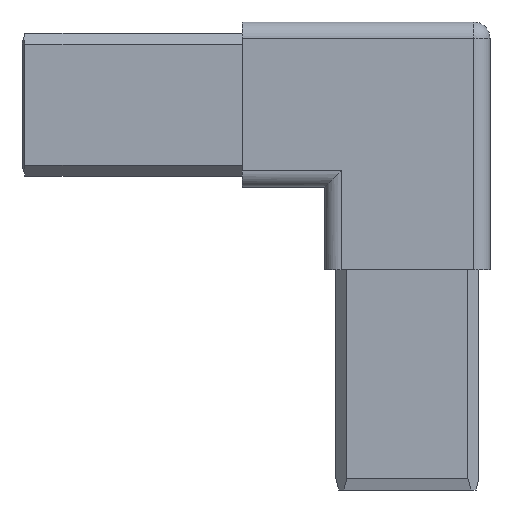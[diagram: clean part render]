
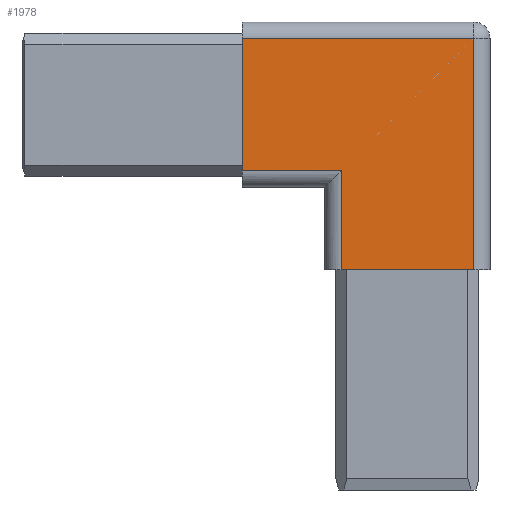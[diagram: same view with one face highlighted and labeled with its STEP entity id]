
A CAD part, front view. The second image highlights one B-rep face of the part: STEP entity #1978.
In plain terms, the highlighted planar face has unit normal (0, -1, 0).
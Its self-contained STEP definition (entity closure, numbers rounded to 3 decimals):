
#216 = EDGE_CURVE ( 'NONE', #4261, #1526, #4192, .T. ) ;
#219 = CARTESIAN_POINT ( 'NONE',  ( -4.5, -22.5, 15. ) ) ;
#267 = ORIENTED_EDGE ( 'NONE', *, *, #216, .T. ) ;
#419 = DIRECTION ( 'NONE',  ( -1., 0., 0. ) ) ;
#778 = VERTEX_POINT ( 'NONE', #4356 ) ;
#822 = DIRECTION ( 'NONE',  ( 0., 0., -1. ) ) ;
#888 = DIRECTION ( 'NONE',  ( 1., 0., 0. ) ) ;
#944 = VERTEX_POINT ( 'NONE', #2176 ) ;
#1007 = FACE_OUTER_BOUND ( 'NONE', #4169, .T. ) ;
#1325 = EDGE_CURVE ( 'NONE', #4261, #3568, #3889, .T. ) ;
#1388 = VECTOR ( 'NONE', #2531, 1000. ) ;
#1474 = CARTESIAN_POINT ( 'NONE',  ( -4.5, -22.5, -30. ) ) ;
#1526 = VERTEX_POINT ( 'NONE', #1930 ) ;
#1612 = ORIENTED_EDGE ( 'NONE', *, *, #2639, .T. ) ;
#1714 = VECTOR ( 'NONE', #1820, 1000. ) ;
#1820 = DIRECTION ( 'NONE',  ( -1., 0., 0. ) ) ;
#1827 = CARTESIAN_POINT ( 'NONE',  ( 19.5, -22.5, 15. ) ) ;
#1930 = CARTESIAN_POINT ( 'NONE',  ( 19.5, -22.5, 12. ) ) ;
#1951 = VECTOR ( 'NONE', #888, 1000. ) ;
#1978 = ADVANCED_FACE ( 'NONE', ( #1007 ), #2378, .F. ) ;
#2053 = VECTOR ( 'NONE', #2870, 1000. ) ;
#2176 = CARTESIAN_POINT ( 'NONE',  ( -22.5, -22.5, -12. ) ) ;
#2283 = VERTEX_POINT ( 'NONE', #3001 ) ;
#2378 = PLANE ( 'NONE',  #3477 ) ;
#2459 = DIRECTION ( 'NONE',  ( 0., 1., 0. ) ) ;
#2531 = DIRECTION ( 'NONE',  ( 0., 0., 1. ) ) ;
#2639 = EDGE_CURVE ( 'NONE', #1526, #2283, #3947, .T. ) ;
#2870 = DIRECTION ( 'NONE',  ( 0., 0., -1. ) ) ;
#2884 = CARTESIAN_POINT ( 'NONE',  ( -22.5, -22.5, 15. ) ) ;
#2957 = LINE ( 'NONE', #219, #2053 ) ;
#3001 = CARTESIAN_POINT ( 'NONE',  ( -22.5, -22.5, 12. ) ) ;
#3098 = ORIENTED_EDGE ( 'NONE', *, *, #3361, .T. ) ;
#3174 = ORIENTED_EDGE ( 'NONE', *, *, #4196, .T. ) ;
#3217 = ORIENTED_EDGE ( 'NONE', *, *, #1325, .F. ) ;
#3361 = EDGE_CURVE ( 'NONE', #778, #3568, #2957, .T. ) ;
#3446 = VECTOR ( 'NONE', #822, 1000. ) ;
#3477 = AXIS2_PLACEMENT_3D ( 'NONE', #3831, #2459, #3516 ) ;
#3516 = DIRECTION ( 'NONE',  ( -1., 0., 0. ) ) ;
#3568 = VERTEX_POINT ( 'NONE', #1474 ) ;
#3694 = CARTESIAN_POINT ( 'NONE',  ( 22.5, -22.5, -12. ) ) ;
#3717 = CARTESIAN_POINT ( 'NONE',  ( 19.5, -22.5, -30. ) ) ;
#3831 = CARTESIAN_POINT ( 'NONE',  ( 22.5, -22.5, 15. ) ) ;
#3863 = CARTESIAN_POINT ( 'NONE',  ( 22.5, -22.5, -30. ) ) ;
#3874 = CARTESIAN_POINT ( 'NONE',  ( -22.5, -22.5, 12. ) ) ;
#3889 = LINE ( 'NONE', #3863, #4003 ) ;
#3947 = LINE ( 'NONE', #3874, #1714 ) ;
#4003 = VECTOR ( 'NONE', #419, 1000. ) ;
#4063 = LINE ( 'NONE', #3694, #1951 ) ;
#4169 = EDGE_LOOP ( 'NONE', ( #267, #1612, #3174, #4410, #3098, #3217 ) ) ;
#4192 = LINE ( 'NONE', #1827, #1388 ) ;
#4196 = EDGE_CURVE ( 'NONE', #2283, #944, #4238, .T. ) ;
#4209 = EDGE_CURVE ( 'NONE', #944, #778, #4063, .T. ) ;
#4238 = LINE ( 'NONE', #2884, #3446 ) ;
#4261 = VERTEX_POINT ( 'NONE', #3717 ) ;
#4356 = CARTESIAN_POINT ( 'NONE',  ( -4.5, -22.5, -12. ) ) ;
#4410 = ORIENTED_EDGE ( 'NONE', *, *, #4209, .T. ) ;
